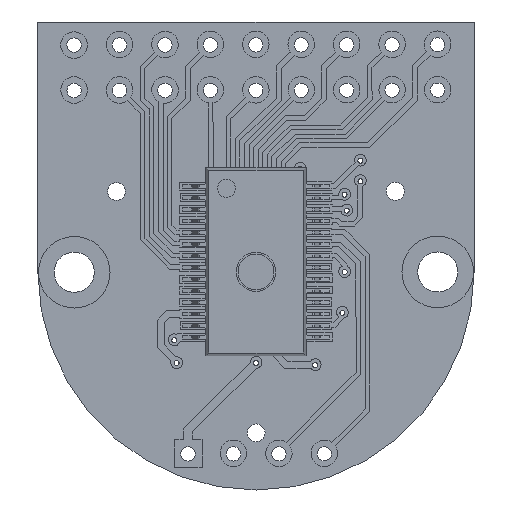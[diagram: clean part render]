
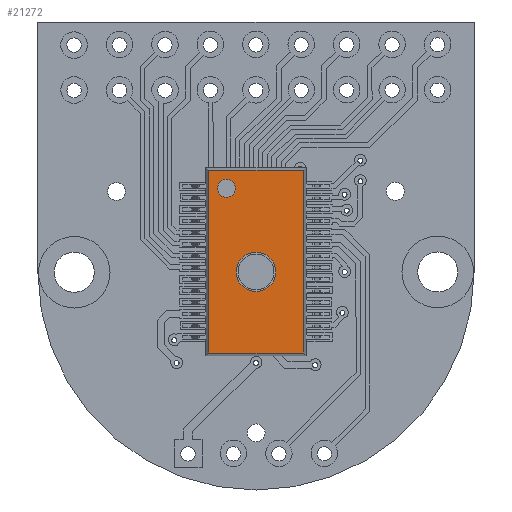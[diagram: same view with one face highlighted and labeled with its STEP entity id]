
A CAD part, front view. The second image highlights one B-rep face of the part: STEP entity #21272.
In plain terms, the highlighted planar face has unit normal (0, -1, 0).
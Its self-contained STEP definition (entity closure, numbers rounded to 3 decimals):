
#1807 = VERTEX_POINT ( 'NONE', #53155 ) ;
#1861 = DIRECTION ( 'NONE',  ( 0., 0., -1. ) ) ;
#4127 = CARTESIAN_POINT ( 'NONE',  ( -13.845, -3.555, -0.377 ) ) ;
#5314 = FACE_OUTER_BOUND ( 'NONE', #37274, .T. ) ;
#6490 = VERTEX_POINT ( 'NONE', #56268 ) ;
#6790 = EDGE_CURVE ( 'NONE', #36931, #40283, #51316, .T. ) ;
#6892 = DIRECTION ( 'NONE',  ( 0., -1., 0. ) ) ;
#6910 = CARTESIAN_POINT ( 'NONE',  ( -9.539, -3.555, 1.123 ) ) ;
#6931 = AXIS2_PLACEMENT_3D ( 'NONE', #48179, #13690, #9324 ) ;
#7341 = FACE_BOUND ( 'NONE', #8535, .T. ) ;
#8535 = EDGE_LOOP ( 'NONE', ( #22232, #16049 ) ) ;
#8586 = VERTEX_POINT ( 'NONE', #4127 ) ;
#9324 = DIRECTION ( 'NONE',  ( 0., 0., -1. ) ) ;
#10066 = AXIS2_PLACEMENT_3D ( 'NONE', #55589, #38041, #20551 ) ;
#11425 = LINE ( 'NONE', #47545, #48916 ) ;
#11455 = LINE ( 'NONE', #14222, #45551 ) ;
#11603 = ORIENTED_EDGE ( 'NONE', *, *, #44144, .T. ) ;
#12372 = ORIENTED_EDGE ( 'NONE', *, *, #6790, .T. ) ;
#12988 = CIRCLE ( 'NONE', #34312, 0.5 ) ;
#12997 = EDGE_CURVE ( 'NONE', #1807, #8586, #32506, .T. ) ;
#13690 = DIRECTION ( 'NONE',  ( 0., -1., 0. ) ) ;
#14222 = CARTESIAN_POINT ( 'NONE',  ( -9.392, -3.555, -9.084 ) ) ;
#15005 = DIRECTION ( 'NONE',  ( 1., 0., 0. ) ) ;
#16049 = ORIENTED_EDGE ( 'NONE', *, *, #12997, .F. ) ;
#18659 = EDGE_CURVE ( 'NONE', #30440, #6490, #40889, .T. ) ;
#18878 = EDGE_CURVE ( 'NONE', #8586, #1807, #12988, .T. ) ;
#20338 = FACE_BOUND ( 'NONE', #23507, .T. ) ;
#20551 = DIRECTION ( 'NONE',  ( 0., 0., -1. ) ) ;
#20644 = ORIENTED_EDGE ( 'NONE', *, *, #51640, .T. ) ;
#20705 = DIRECTION ( 'NONE',  ( -1., 0., 0. ) ) ;
#21272 = ADVANCED_FACE ( 'NONE', ( #20338, #7341, #5314 ), #36760, .T. ) ;
#22232 = ORIENTED_EDGE ( 'NONE', *, *, #18878, .F. ) ;
#23507 = EDGE_LOOP ( 'NONE', ( #43240, #53645 ) ) ;
#24119 = DIRECTION ( 'NONE',  ( 0., 0., -1. ) ) ;
#24274 = CARTESIAN_POINT ( 'NONE',  ( -14.845, -3.555, 1.123 ) ) ;
#24411 = CARTESIAN_POINT ( 'NONE',  ( -9.392, -3.555, 1.27 ) ) ;
#26172 = VECTOR ( 'NONE', #54715, 1000. ) ;
#28185 = CARTESIAN_POINT ( 'NONE',  ( -13.845, -3.555, 0.123 ) ) ;
#29348 = CARTESIAN_POINT ( 'NONE',  ( -9.539, -3.555, -9.084 ) ) ;
#29755 = DIRECTION ( 'NONE',  ( 0., 0., 1. ) ) ;
#30440 = VERTEX_POINT ( 'NONE', #32245 ) ;
#31920 = AXIS2_PLACEMENT_3D ( 'NONE', #24411, #54086, #32194 ) ;
#32194 = DIRECTION ( 'NONE',  ( 0., 0., -1. ) ) ;
#32245 = CARTESIAN_POINT ( 'NONE',  ( -12.192, -3.555, -3.45 ) ) ;
#32506 = CIRCLE ( 'NONE', #40303, 0.5 ) ;
#32556 = DIRECTION ( 'NONE',  ( 0., -1., 0. ) ) ;
#32651 = CARTESIAN_POINT ( 'NONE',  ( -14.845, -3.555, 1.27 ) ) ;
#34069 = ORIENTED_EDGE ( 'NONE', *, *, #54958, .T. ) ;
#34312 = AXIS2_PLACEMENT_3D ( 'NONE', #28185, #32556, #1861 ) ;
#35652 = CIRCLE ( 'NONE', #10066, 1.1 ) ;
#36468 = VERTEX_POINT ( 'NONE', #6910 ) ;
#36760 = PLANE ( 'NONE',  #31920 ) ;
#36931 = VERTEX_POINT ( 'NONE', #24274 ) ;
#37016 = CARTESIAN_POINT ( 'NONE',  ( -13.845, -3.555, 0.123 ) ) ;
#37127 = VERTEX_POINT ( 'NONE', #29348 ) ;
#37274 = EDGE_LOOP ( 'NONE', ( #11603, #12372, #20644, #34069 ) ) ;
#37935 = CARTESIAN_POINT ( 'NONE',  ( -9.539, -3.555, 1.27 ) ) ;
#38041 = DIRECTION ( 'NONE',  ( 0., -1., 0. ) ) ;
#40283 = VERTEX_POINT ( 'NONE', #48553 ) ;
#40303 = AXIS2_PLACEMENT_3D ( 'NONE', #37016, #6892, #24119 ) ;
#40889 = CIRCLE ( 'NONE', #6931, 1.1 ) ;
#43240 = ORIENTED_EDGE ( 'NONE', *, *, #46290, .F. ) ;
#44144 = EDGE_CURVE ( 'NONE', #36468, #36931, #11425, .T. ) ;
#45551 = VECTOR ( 'NONE', #15005, 1000. ) ;
#46290 = EDGE_CURVE ( 'NONE', #6490, #30440, #35652, .T. ) ;
#47545 = CARTESIAN_POINT ( 'NONE',  ( -9.392, -3.555, 1.123 ) ) ;
#48179 = CARTESIAN_POINT ( 'NONE',  ( -12.192, -3.555, -4.55 ) ) ;
#48553 = CARTESIAN_POINT ( 'NONE',  ( -14.845, -3.555, -9.084 ) ) ;
#48916 = VECTOR ( 'NONE', #20705, 1000. ) ;
#49849 = LINE ( 'NONE', #37935, #55316 ) ;
#51316 = LINE ( 'NONE', #32651, #26172 ) ;
#51640 = EDGE_CURVE ( 'NONE', #40283, #37127, #11455, .T. ) ;
#53155 = CARTESIAN_POINT ( 'NONE',  ( -13.845, -3.555, 0.623 ) ) ;
#53645 = ORIENTED_EDGE ( 'NONE', *, *, #18659, .F. ) ;
#54086 = DIRECTION ( 'NONE',  ( 0., -1., 0. ) ) ;
#54715 = DIRECTION ( 'NONE',  ( 0., 0., -1. ) ) ;
#54958 = EDGE_CURVE ( 'NONE', #37127, #36468, #49849, .T. ) ;
#55316 = VECTOR ( 'NONE', #29755, 1000. ) ;
#55589 = CARTESIAN_POINT ( 'NONE',  ( -12.192, -3.555, -4.55 ) ) ;
#56268 = CARTESIAN_POINT ( 'NONE',  ( -12.192, -3.555, -5.65 ) ) ;
